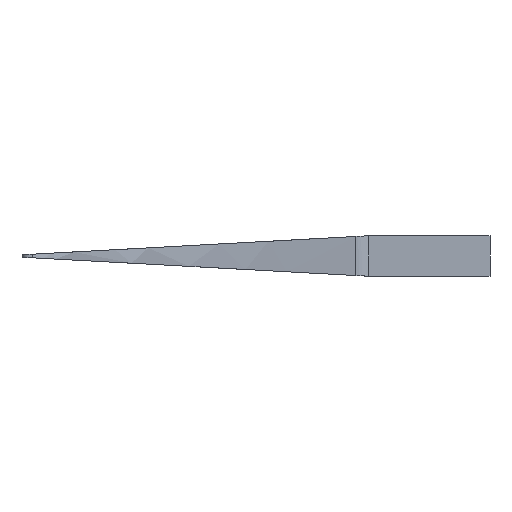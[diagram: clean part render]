
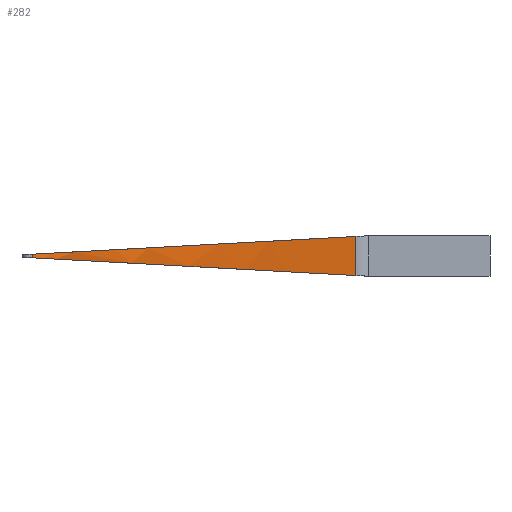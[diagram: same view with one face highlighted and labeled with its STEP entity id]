
A CAD part, front view. The second image highlights one B-rep face of the part: STEP entity #282.
In plain terms, the highlighted free-form (B-spline) face has degree [4, 1] with [14, 2] control points.
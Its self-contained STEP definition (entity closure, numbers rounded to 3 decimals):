
#22=B_SPLINE_CURVE_WITH_KNOTS('',3,(#443,#444,#445,#446,#447,#448,#449,
#450,#451,#452,#453,#454,#455,#456,#457,#458,#459,#460),.UNSPECIFIED.,.F.,
 .F.,(4,2,2,2,2,2,2,2,4),(-2.03,-1.958,-1.928,
-1.823,-1.751,-1.517,-0.867,
-0.608,-0.264),.UNSPECIFIED.);
#23=B_SPLINE_CURVE_WITH_KNOTS('',3,(#463,#464,#465,#466,#467,#468,#469,
#470,#471,#472,#473,#474,#475,#476,#477,#478,#479,#480,#481,#482),
 .UNSPECIFIED.,.F.,.F.,(4,2,2,2,2,2,2,2,2,4),(-8.857,-7.782,
-6.583,-6.039,-5.315,-4.457,
-3.214,-1.918,-0.842,-0.257),
 .UNSPECIFIED.);
#30=B_SPLINE_SURFACE_WITH_KNOTS('',4,1,((#414,#415),(#416,#417),(#418,#419),
(#420,#421),(#422,#423),(#424,#425),(#426,#427),(#428,#429),(#430,#431),
(#432,#433),(#434,#435),(#436,#437),(#438,#439),(#440,#441)),
 .UNSPECIFIED.,.F.,.F.,.F.,(5,1,1,1,1,1,1,1,1,1,5),(2,2),(-11.,-10.,-9.,
-8.,-7.,-6.,-5.,-4.,-3.,-2.,-1.),(-0.25,0.25),.UNSPECIFIED.);
#35=LINE('',#413,#54);
#36=LINE('',#462,#55);
#54=VECTOR('',#344,10.);
#55=VECTOR('',#345,10.);
#89=FACE_OUTER_BOUND('',#108,.T.);
#108=EDGE_LOOP('',(#203,#204,#205,#206));
#135=VERTEX_POINT('',#407);
#137=VERTEX_POINT('',#411);
#138=VERTEX_POINT('',#442);
#139=VERTEX_POINT('',#461);
#163=EDGE_CURVE('',#137,#135,#35,.T.);
#164=EDGE_CURVE('',#137,#138,#22,.T.);
#165=EDGE_CURVE('',#139,#138,#36,.T.);
#166=EDGE_CURVE('',#139,#135,#23,.T.);
#203=ORIENTED_EDGE('',*,*,#163,.F.);
#204=ORIENTED_EDGE('',*,*,#164,.T.);
#205=ORIENTED_EDGE('',*,*,#165,.F.);
#206=ORIENTED_EDGE('',*,*,#166,.T.);
#282=ADVANCED_FACE('',(#89),#30,.T.);
#344=DIRECTION('',(0.,0.,-1.));
#345=DIRECTION('',(0.,0.,1.));
#407=CARTESIAN_POINT('',(-106.967,-5.009,-2.414));
#411=CARTESIAN_POINT('',(-106.967,-5.009,2.414));
#413=CARTESIAN_POINT('',(-106.967,-5.009,2.414));
#414=CARTESIAN_POINT('Ctrl Pts',(-149.66,-46.509,-2.5));
#415=CARTESIAN_POINT('Ctrl Pts',(-149.66,-46.509,2.5));
#416=CARTESIAN_POINT('Ctrl Pts',(-148.721,-46.243,-2.5));
#417=CARTESIAN_POINT('Ctrl Pts',(-148.721,-46.243,2.5));
#418=CARTESIAN_POINT('Ctrl Pts',(-147.285,-46.243,-2.5));
#419=CARTESIAN_POINT('Ctrl Pts',(-147.285,-46.243,2.5));
#420=CARTESIAN_POINT('Ctrl Pts',(-143.37,-44.416,-2.5));
#421=CARTESIAN_POINT('Ctrl Pts',(-143.37,-44.416,2.5));
#422=CARTESIAN_POINT('Ctrl Pts',(-140.108,-42.067,-2.5));
#423=CARTESIAN_POINT('Ctrl Pts',(-140.108,-42.067,2.5));
#424=CARTESIAN_POINT('Ctrl Pts',(-134.757,-38.282,-2.5));
#425=CARTESIAN_POINT('Ctrl Pts',(-134.757,-38.282,2.5));
#426=CARTESIAN_POINT('Ctrl Pts',(-131.103,-34.759,-2.5));
#427=CARTESIAN_POINT('Ctrl Pts',(-131.103,-34.759,2.5));
#428=CARTESIAN_POINT('Ctrl Pts',(-128.102,-31.496,-2.5));
#429=CARTESIAN_POINT('Ctrl Pts',(-128.102,-31.496,2.5));
#430=CARTESIAN_POINT('Ctrl Pts',(-121.838,-24.449,-2.5));
#431=CARTESIAN_POINT('Ctrl Pts',(-121.838,-24.449,2.5));
#432=CARTESIAN_POINT('Ctrl Pts',(-116.748,-18.185,-2.5));
#433=CARTESIAN_POINT('Ctrl Pts',(-116.748,-18.185,2.5));
#434=CARTESIAN_POINT('Ctrl Pts',(-114.138,-14.401,-2.5));
#435=CARTESIAN_POINT('Ctrl Pts',(-114.138,-14.401,2.5));
#436=CARTESIAN_POINT('Ctrl Pts',(-110.484,-9.964,-2.5));
#437=CARTESIAN_POINT('Ctrl Pts',(-110.484,-9.964,2.5));
#438=CARTESIAN_POINT('Ctrl Pts',(-107.874,-5.918,-2.5));
#439=CARTESIAN_POINT('Ctrl Pts',(-107.874,-5.918,2.5));
#440=CARTESIAN_POINT('Ctrl Pts',(-105.395,-3.178,-2.5));
#441=CARTESIAN_POINT('Ctrl Pts',(-105.395,-3.178,2.5));
#442=CARTESIAN_POINT('',(-146.932,-45.868,0.222));
#443=CARTESIAN_POINT('Ctrl Pts',(-106.967,-5.009,2.414));
#444=CARTESIAN_POINT('Ctrl Pts',(-108.54,-6.941,2.327));
#445=CARTESIAN_POINT('Ctrl Pts',(-109.731,-8.739,2.262));
#446=CARTESIAN_POINT('Ctrl Pts',(-112.224,-12.07,2.125));
#447=CARTESIAN_POINT('Ctrl Pts',(-112.94,-12.994,2.086));
#448=CARTESIAN_POINT('Ctrl Pts',(-116.36,-17.463,1.899));
#449=CARTESIAN_POINT('Ctrl Pts',(-117.109,-18.594,1.858));
#450=CARTESIAN_POINT('Ctrl Pts',(-121.273,-23.692,1.629));
#451=CARTESIAN_POINT('Ctrl Pts',(-123.08,-25.796,1.53));
#452=CARTESIAN_POINT('Ctrl Pts',(-130.625,-34.384,1.116));
#453=CARTESIAN_POINT('Ctrl Pts',(-132.395,-35.97,1.019));
#454=CARTESIAN_POINT('Ctrl Pts',(-135.68,-38.95,0.839));
#455=CARTESIAN_POINT('Ctrl Pts',(-138.851,-41.203,0.665));
#456=CARTESIAN_POINT('Ctrl Pts',(-141.486,-43.028,0.521));
#457=CARTESIAN_POINT('Ctrl Pts',(-142.271,-43.552,0.478));
#458=CARTESIAN_POINT('Ctrl Pts',(-144.173,-44.682,0.373));
#459=CARTESIAN_POINT('Ctrl Pts',(-145.539,-45.412,0.298));
#460=CARTESIAN_POINT('Ctrl Pts',(-146.932,-45.868,0.222));
#461=CARTESIAN_POINT('',(-146.932,-45.868,-0.222));
#462=CARTESIAN_POINT('',(-146.932,-45.868,-0.222));
#463=CARTESIAN_POINT('Ctrl Pts',(-146.932,-45.868,-0.222));
#464=CARTESIAN_POINT('Ctrl Pts',(-145.372,-45.357,-0.307));
#465=CARTESIAN_POINT('Ctrl Pts',(-143.81,-44.469,-0.393));
#466=CARTESIAN_POINT('Ctrl Pts',(-142.136,-43.468,-0.485));
#467=CARTESIAN_POINT('Ctrl Pts',(-141.073,-42.766,-0.543));
#468=CARTESIAN_POINT('Ctrl Pts',(-138.403,-40.854,-0.69));
#469=CARTESIAN_POINT('Ctrl Pts',(-137.342,-40.082,-0.748));
#470=CARTESIAN_POINT('Ctrl Pts',(-135.22,-38.456,-0.864));
#471=CARTESIAN_POINT('Ctrl Pts',(-134.084,-37.521,-0.927));
#472=CARTESIAN_POINT('Ctrl Pts',(-131.556,-35.179,-1.065));
#473=CARTESIAN_POINT('Ctrl Pts',(-130.259,-33.816,-1.136));
#474=CARTESIAN_POINT('Ctrl Pts',(-127.246,-30.537,-1.302));
#475=CARTESIAN_POINT('Ctrl Pts',(-123.9,-26.799,-1.485));
#476=CARTESIAN_POINT('Ctrl Pts',(-117.766,-19.469,-1.821));
#477=CARTESIAN_POINT('Ctrl Pts',(-116.209,-17.283,-1.907));
#478=CARTESIAN_POINT('Ctrl Pts',(-112.412,-12.291,-2.115));
#479=CARTESIAN_POINT('Ctrl Pts',(-111.527,-11.176,-2.164));
#480=CARTESIAN_POINT('Ctrl Pts',(-108.962,-7.609,-2.304));
#481=CARTESIAN_POINT('Ctrl Pts',(-108.063,-6.356,-2.354));
#482=CARTESIAN_POINT('Ctrl Pts',(-106.967,-5.009,-2.414));
